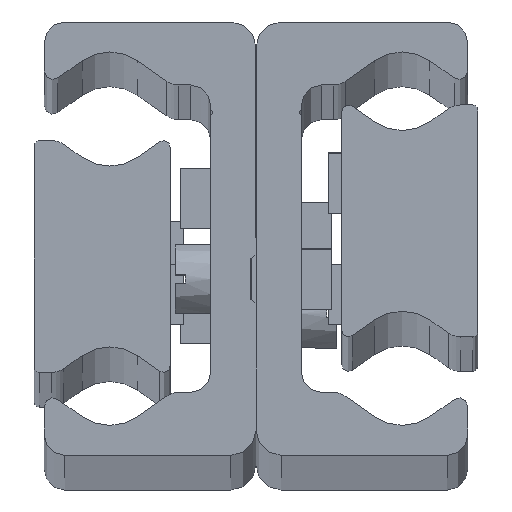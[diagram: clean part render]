
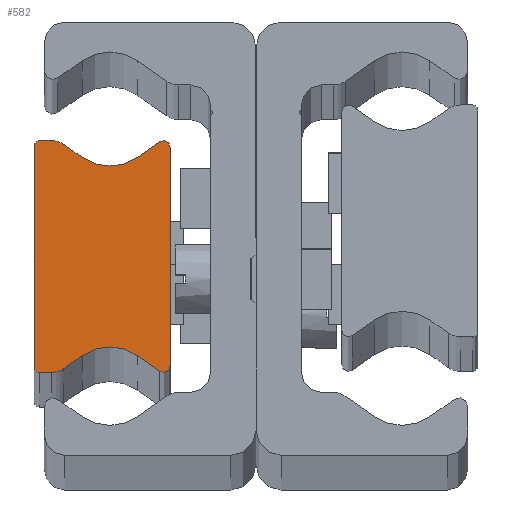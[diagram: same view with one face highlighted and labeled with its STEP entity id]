
A CAD part, top view. The second image highlights one B-rep face of the part: STEP entity #582.
In plain terms, the highlighted planar face has unit normal (0, 0, 1) as drawn and (0, 0, -1) by its records, which use the part's own axes.
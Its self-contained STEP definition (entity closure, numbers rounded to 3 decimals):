
#582 = ADVANCED_FACE( '', ( #1399 ), #1400, .F. );
#1399 = FACE_OUTER_BOUND( '', #2437, .T. );
#1400 = PLANE( '', #2438 );
#2437 = EDGE_LOOP( '', ( #3934, #3935, #3936, #3937, #3938, #3939, #3940, #3941, #3942, #3943, #3944, #3945, #3946, #3947, #3948, #3949 ) );
#2438 = AXIS2_PLACEMENT_3D( '', #3950, #3951, #3952 );
#3934 = ORIENTED_EDGE( '', *, *, #5169, .F. );
#3935 = ORIENTED_EDGE( '', *, *, #5398, .F. );
#3936 = ORIENTED_EDGE( '', *, *, #5399, .F. );
#3937 = ORIENTED_EDGE( '', *, *, #5400, .F. );
#3938 = ORIENTED_EDGE( '', *, *, #5097, .F. );
#3939 = ORIENTED_EDGE( '', *, *, #5401, .T. );
#3940 = ORIENTED_EDGE( '', *, *, #5395, .F. );
#3941 = ORIENTED_EDGE( '', *, *, #5402, .F. );
#3942 = ORIENTED_EDGE( '', *, *, #5403, .F. );
#3943 = ORIENTED_EDGE( '', *, *, #5290, .F. );
#3944 = ORIENTED_EDGE( '', *, *, #5404, .F. );
#3945 = ORIENTED_EDGE( '', *, *, #5405, .T. );
#3946 = ORIENTED_EDGE( '', *, *, #5406, .F. );
#3947 = ORIENTED_EDGE( '', *, *, #4962, .F. );
#3948 = ORIENTED_EDGE( '', *, *, #5407, .F. );
#3949 = ORIENTED_EDGE( '', *, *, #5408, .F. );
#3950 = CARTESIAN_POINT( '', ( 0.5, -11., -1970. ) );
#3951 = DIRECTION( '', ( 0., 0., 1. ) );
#3952 = DIRECTION( '', ( 1., 0., 0. ) );
#4962 = EDGE_CURVE( '', #5721, #5723, #5724, .T. );
#5097 = EDGE_CURVE( '', #5957, #5959, #5960, .T. );
#5169 = EDGE_CURVE( '', #6081, #6083, #6084, .T. );
#5290 = EDGE_CURVE( '', #6272, #6274, #6275, .T. );
#5395 = EDGE_CURVE( '', #6428, #6430, #6431, .T. );
#5398 = EDGE_CURVE( '', #6434, #6081, #6435, .T. );
#5399 = EDGE_CURVE( '', #6436, #6434, #6437, .T. );
#5400 = EDGE_CURVE( '', #5959, #6436, #6438, .T. );
#5401 = EDGE_CURVE( '', #5957, #6430, #6439, .T. );
#5402 = EDGE_CURVE( '', #6440, #6428, #6441, .T. );
#5403 = EDGE_CURVE( '', #6274, #6440, #6442, .T. );
#5404 = EDGE_CURVE( '', #6443, #6272, #6444, .T. );
#5405 = EDGE_CURVE( '', #6443, #6445, #6446, .T. );
#5406 = EDGE_CURVE( '', #5723, #6445, #6447, .T. );
#5407 = EDGE_CURVE( '', #6448, #5721, #6449, .T. );
#5408 = EDGE_CURVE( '', #6083, #6448, #6450, .T. );
#5721 = VERTEX_POINT( '', #6838 );
#5723 = VERTEX_POINT( '', #6841 );
#5724 = CIRCLE( '', #6842, 2. );
#5957 = VERTEX_POINT( '', #7117 );
#5959 = VERTEX_POINT( '', #7120 );
#5960 = LINE( '', #7121, #7122 );
#6081 = VERTEX_POINT( '', #7262 );
#6083 = VERTEX_POINT( '', #7265 );
#6084 = LINE( '', #7266, #7267 );
#6272 = VERTEX_POINT( '', #7482 );
#6274 = VERTEX_POINT( '', #7485 );
#6275 = CIRCLE( '', #7486, 0.668 );
#6428 = VERTEX_POINT( '', #7678 );
#6430 = VERTEX_POINT( '', #7681 );
#6431 = LINE( '', #7682, #7683 );
#6434 = VERTEX_POINT( '', #7687 );
#6435 = CIRCLE( '', #7688, 0.5 );
#6436 = VERTEX_POINT( '', #7689 );
#6437 = LINE( '', #7690, #7691 );
#6438 = CIRCLE( '', #7692, 2. );
#6439 = CIRCLE( '', #7693, 4.763 );
#6440 = VERTEX_POINT( '', #7694 );
#6441 = CIRCLE( '', #7695, 0.668 );
#6442 = LINE( '', #7696, #7697 );
#6443 = VERTEX_POINT( '', #7698 );
#6444 = LINE( '', #7699, #7700 );
#6445 = VERTEX_POINT( '', #7701 );
#6446 = CIRCLE( '', #7702, 4.763 );
#6447 = LINE( '', #7703, #7704 );
#6448 = VERTEX_POINT( '', #7705 );
#6449 = LINE( '', #7706, #7707 );
#6450 = CIRCLE( '', #7708, 0.5 );
#6838 = CARTESIAN_POINT( '', ( 1.748, -11.5, -1970. ) );
#6841 = CARTESIAN_POINT( '', ( 2.895, -11.138, -1970. ) );
#6842 = AXIS2_PLACEMENT_3D( '', #8088, #8089, #8090 );
#7117 = CARTESIAN_POINT( '', ( 4.768, 9.827, -1970. ) );
#7120 = CARTESIAN_POINT( '', ( 2.895, 11.138, -1970. ) );
#7121 = CARTESIAN_POINT( '', ( 4.768, 9.827, -1970. ) );
#7122 = VECTOR( '', #8332, 1000. );
#7262 = CARTESIAN_POINT( '', ( 0., 11., -1970. ) );
#7265 = CARTESIAN_POINT( '', ( 0., -11., -1970. ) );
#7266 = CARTESIAN_POINT( '', ( 0., 11., -1970. ) );
#7267 = VECTOR( '', #8461, 1000. );
#7482 = CARTESIAN_POINT( '', ( 12.449, -11.379, -1970. ) );
#7485 = CARTESIAN_POINT( '', ( 13.5, -10.832, -1970. ) );
#7486 = AXIS2_PLACEMENT_3D( '', #8643, #8644, #8645 );
#7678 = CARTESIAN_POINT( '', ( 12.449, 11.379, -1970. ) );
#7681 = CARTESIAN_POINT( '', ( 10.232, 9.827, -1970. ) );
#7682 = CARTESIAN_POINT( '', ( 12.449, 11.379, -1970. ) );
#7683 = VECTOR( '', #8809, 1000. );
#7687 = CARTESIAN_POINT( '', ( 0.5, 11.5, -1970. ) );
#7688 = AXIS2_PLACEMENT_3D( '', #8811, #8812, #8813 );
#7689 = CARTESIAN_POINT( '', ( 1.748, 11.5, -1970. ) );
#7690 = CARTESIAN_POINT( '', ( 1.748, 11.5, -1970. ) );
#7691 = VECTOR( '', #8814, 1000. );
#7692 = AXIS2_PLACEMENT_3D( '', #8815, #8816, #8817 );
#7693 = AXIS2_PLACEMENT_3D( '', #8818, #8819, #8820 );
#7694 = CARTESIAN_POINT( '', ( 13.5, 10.832, -1970. ) );
#7695 = AXIS2_PLACEMENT_3D( '', #8821, #8822, #8823 );
#7696 = CARTESIAN_POINT( '', ( 13.5, -10.832, -1970. ) );
#7697 = VECTOR( '', #8824, 1000. );
#7698 = CARTESIAN_POINT( '', ( 10.232, -9.827, -1970. ) );
#7699 = CARTESIAN_POINT( '', ( 10.232, -9.827, -1970. ) );
#7700 = VECTOR( '', #8825, 1000. );
#7701 = CARTESIAN_POINT( '', ( 4.768, -9.827, -1970. ) );
#7702 = AXIS2_PLACEMENT_3D( '', #8826, #8827, #8828 );
#7703 = CARTESIAN_POINT( '', ( 2.895, -11.138, -1970. ) );
#7704 = VECTOR( '', #8829, 1000. );
#7705 = CARTESIAN_POINT( '', ( 0.5, -11.5, -1970. ) );
#7706 = CARTESIAN_POINT( '', ( 0.5, -11.5, -1970. ) );
#7707 = VECTOR( '', #8830, 1000. );
#7708 = AXIS2_PLACEMENT_3D( '', #8831, #8832, #8833 );
#8088 = CARTESIAN_POINT( '', ( 1.748, -9.5, -1970. ) );
#8089 = DIRECTION( '', ( 0., 0., 1. ) );
#8090 = DIRECTION( '', ( 1., 0., 0. ) );
#8332 = DIRECTION( '', ( -0.819, 0.574, 0. ) );
#8461 = DIRECTION( '', ( 0., -1., 0. ) );
#8643 = CARTESIAN_POINT( '', ( 12.832, -10.832, -1970. ) );
#8644 = DIRECTION( '', ( 0., 0., 1. ) );
#8645 = DIRECTION( '', ( 1., 0., 0. ) );
#8809 = DIRECTION( '', ( -0.819, -0.574, 0. ) );
#8811 = CARTESIAN_POINT( '', ( 0.5, 11., -1970. ) );
#8812 = DIRECTION( '', ( 0., 0., 1. ) );
#8813 = DIRECTION( '', ( 1., 0., 0. ) );
#8814 = DIRECTION( '', ( -1., 0., 0. ) );
#8815 = CARTESIAN_POINT( '', ( 1.748, 9.5, -1970. ) );
#8816 = DIRECTION( '', ( 0., 0., 1. ) );
#8817 = DIRECTION( '', ( 1., 0., 0. ) );
#8818 = CARTESIAN_POINT( '', ( 7.5, 13.729, -1970. ) );
#8819 = DIRECTION( '', ( 0., 0., 1. ) );
#8820 = DIRECTION( '', ( 1., 0., 0. ) );
#8821 = CARTESIAN_POINT( '', ( 12.832, 10.832, -1970. ) );
#8822 = DIRECTION( '', ( 0., 0., 1. ) );
#8823 = DIRECTION( '', ( 1., 0., 0. ) );
#8824 = DIRECTION( '', ( 0., 1., 0. ) );
#8825 = DIRECTION( '', ( 0.819, -0.574, 0. ) );
#8826 = CARTESIAN_POINT( '', ( 7.5, -13.729, -1970. ) );
#8827 = DIRECTION( '', ( 0., 0., 1. ) );
#8828 = DIRECTION( '', ( 1., 0., 0. ) );
#8829 = DIRECTION( '', ( 0.819, 0.574, 0. ) );
#8830 = DIRECTION( '', ( 1., 0., 0. ) );
#8831 = CARTESIAN_POINT( '', ( 0.5, -11., -1970. ) );
#8832 = DIRECTION( '', ( 0., 0., 1. ) );
#8833 = DIRECTION( '', ( 1., 0., 0. ) );
